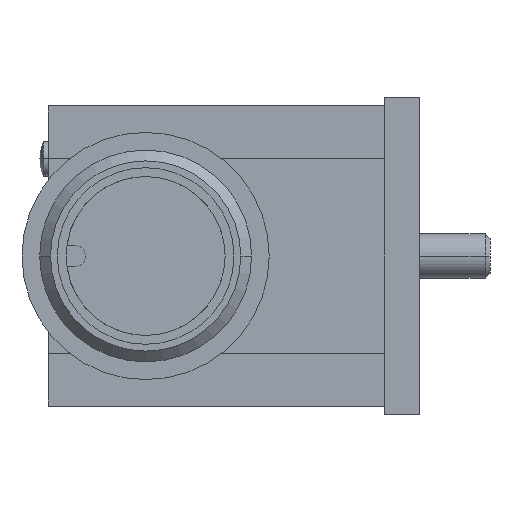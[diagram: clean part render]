
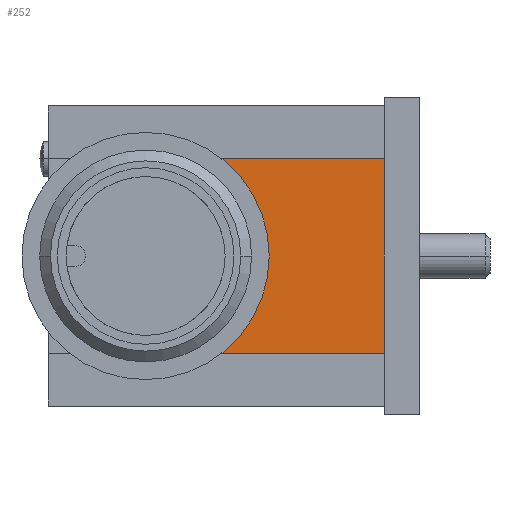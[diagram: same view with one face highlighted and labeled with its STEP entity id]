
A CAD part, left-side view. The second image highlights one B-rep face of the part: STEP entity #252.
In plain terms, the highlighted planar face has unit normal (-1, 0, 0).
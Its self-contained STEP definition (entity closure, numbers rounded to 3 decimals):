
#252 = ADVANCED_FACE( '', ( #537 ), #538, .T. );
#537 = FACE_OUTER_BOUND( '', #824, .T. );
#538 = PLANE( '', #825 );
#824 = EDGE_LOOP( '', ( #1787, #1788, #1789, #1790, #1791 ) );
#825 = AXIS2_PLACEMENT_3D( '', #1792, #1793, #1794 );
#1787 = ORIENTED_EDGE( '', *, *, #2097, .T. );
#1788 = ORIENTED_EDGE( '', *, *, #1938, .T. );
#1789 = ORIENTED_EDGE( '', *, *, #2100, .F. );
#1790 = ORIENTED_EDGE( '', *, *, #2083, .T. );
#1791 = ORIENTED_EDGE( '', *, *, #2096, .T. );
#1792 = CARTESIAN_POINT( '', ( 51., -13.5, -5.5 ) );
#1793 = DIRECTION( '', ( -1., 0., 0. ) );
#1794 = DIRECTION( '', ( 0., -1., 0. ) );
#1938 = EDGE_CURVE( '', #2305, #2311, #2313, .T. );
#2083 = EDGE_CURVE( '', #2559, #2557, #2560, .T. );
#2096 = EDGE_CURVE( '', #2557, #2573, #2575, .T. );
#2097 = EDGE_CURVE( '', #2573, #2305, #2576, .T. );
#2100 = EDGE_CURVE( '', #2559, #2311, #2579, .T. );
#2305 = VERTEX_POINT( '', #2834 );
#2311 = VERTEX_POINT( '', #2842 );
#2313 = CIRCLE( '', #2844, 5.5 );
#2557 = VERTEX_POINT( '', #3198 );
#2559 = VERTEX_POINT( '', #3201 );
#2560 = LINE( '', #3202, #3203 );
#2573 = VERTEX_POINT( '', #3224 );
#2575 = LINE( '', #3227, #3228 );
#2576 = CIRCLE( '', #3229, 5.5 );
#2579 = LINE( '', #3232, #3233 );
#2834 = CARTESIAN_POINT( '', ( 51., -5.5, 0. ) );
#2842 = CARTESIAN_POINT( '', ( 51., 0., -5.5 ) );
#2844 = AXIS2_PLACEMENT_3D( '', #3516, #3517, #3518 );
#3198 = CARTESIAN_POINT( '', ( 51., -13.5, 5.5 ) );
#3201 = CARTESIAN_POINT( '', ( 51., -13.5, -5.5 ) );
#3202 = CARTESIAN_POINT( '', ( 51., -13.5, -5.5 ) );
#3203 = VECTOR( '', #3729, 1. );
#3224 = CARTESIAN_POINT( '', ( 51., 0., 5.5 ) );
#3227 = CARTESIAN_POINT( '', ( 51., -13.5, 5.5 ) );
#3228 = VECTOR( '', #3748, 1. );
#3229 = AXIS2_PLACEMENT_3D( '', #3749, #3750, #3751 );
#3232 = CARTESIAN_POINT( '', ( 51., -13.5, -5.5 ) );
#3233 = VECTOR( '', #3758, 1. );
#3516 = CARTESIAN_POINT( '', ( 51., 0., 0. ) );
#3517 = DIRECTION( '', ( 1., 0., 0. ) );
#3518 = DIRECTION( '', ( 0., -1., 0. ) );
#3729 = DIRECTION( '', ( 0., 0., 1. ) );
#3748 = DIRECTION( '', ( 0., 1., 0. ) );
#3749 = CARTESIAN_POINT( '', ( 51., 0., 0. ) );
#3750 = DIRECTION( '', ( 1., 0., 0. ) );
#3751 = DIRECTION( '', ( 0., -1., 0. ) );
#3758 = DIRECTION( '', ( 0., 1., 0. ) );
